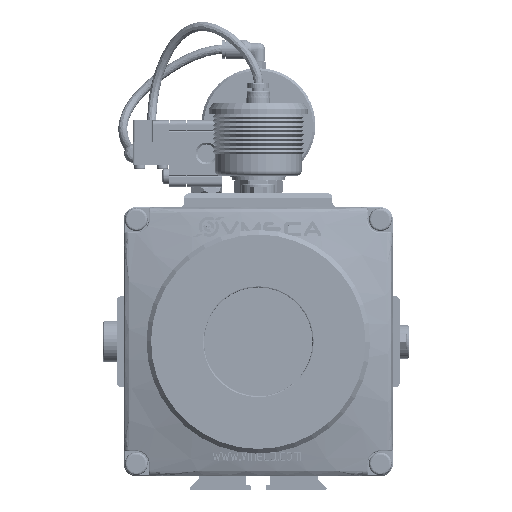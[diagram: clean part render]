
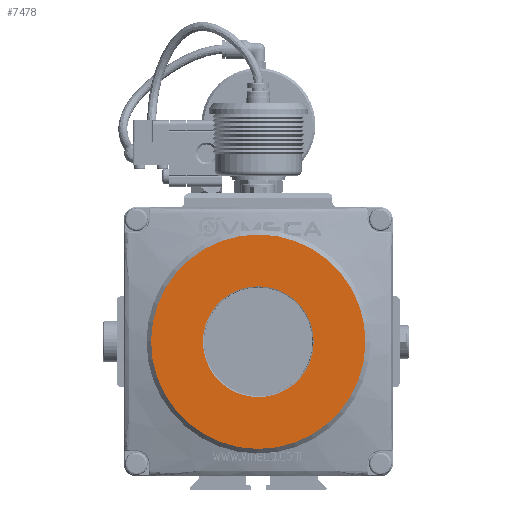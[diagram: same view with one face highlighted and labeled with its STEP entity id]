
A CAD part, left-side view. The second image highlights one B-rep face of the part: STEP entity #7478.
In plain terms, the highlighted planar face has unit normal (-1, 0, 0).
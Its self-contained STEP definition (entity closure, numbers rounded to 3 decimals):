
#7478 = ADVANCED_FACE( '', ( #15414, #15415 ), #15416, .F. );
#15414 = FACE_OUTER_BOUND( '', #27063, .T. );
#15415 = FACE_BOUND( '', #27064, .T. );
#15416 = PLANE( '', #27065 );
#27063 = EDGE_LOOP( '', ( #49096 ) );
#27064 = EDGE_LOOP( '', ( #49097 ) );
#27065 = AXIS2_PLACEMENT_3D( '', #49098, #49099, #49100 );
#49096 = ORIENTED_EDGE( '', *, *, #51674, .T. );
#49097 = ORIENTED_EDGE( '', *, *, #51902, .F. );
#49098 = CARTESIAN_POINT( '', ( -11., 0., 47. ) );
#49099 = DIRECTION( '', ( 1., 0., 0. ) );
#49100 = DIRECTION( '', ( 0., 1., 0. ) );
#51674 = EDGE_CURVE( '', #61587, #61587, #61588, .T. );
#51902 = EDGE_CURVE( '', #61948, #61948, #61949, .T. );
#61587 = VERTEX_POINT( '', #77261 );
#61588 = CIRCLE( '', #77262, 47. );
#61948 = VERTEX_POINT( '', #77959 );
#61949 = CIRCLE( '', #77960, 24.3 );
#77261 = CARTESIAN_POINT( '', ( -11., 0., 47. ) );
#77262 = AXIS2_PLACEMENT_3D( '', #95194, #95195, #95196 );
#77959 = CARTESIAN_POINT( '', ( -11., 0., 24.3 ) );
#77960 = AXIS2_PLACEMENT_3D( '', #95391, #95392, #95393 );
#95194 = CARTESIAN_POINT( '', ( -11., 0., 0. ) );
#95195 = DIRECTION( '', ( -1., 0., 0. ) );
#95196 = DIRECTION( '', ( 0., 0., 1. ) );
#95391 = CARTESIAN_POINT( '', ( -11., 0., 0. ) );
#95392 = DIRECTION( '', ( -1., 0., 0. ) );
#95393 = DIRECTION( '', ( 0., 0., 1. ) );
